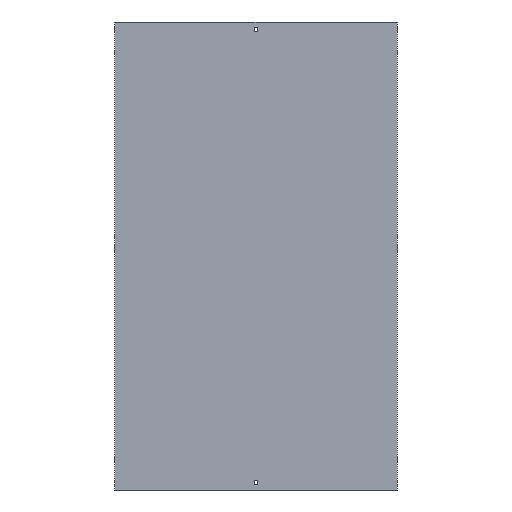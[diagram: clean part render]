
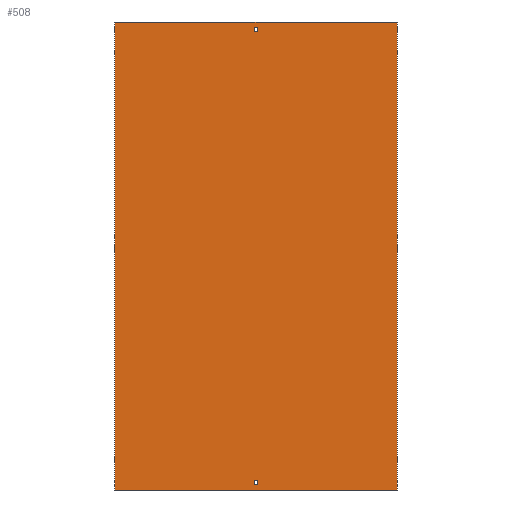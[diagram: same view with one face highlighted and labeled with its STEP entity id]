
A CAD part, front view. The second image highlights one B-rep face of the part: STEP entity #508.
In plain terms, the highlighted planar face has unit normal (0, -1, 0).
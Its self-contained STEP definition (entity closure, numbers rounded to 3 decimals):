
#97 = CARTESIAN_POINT ( 'NONE',  ( -3.25, 0., 488. ) ) ;
#113 = DIRECTION ( 'NONE',  ( -1., 0., 0. ) ) ;
#152 = ORIENTED_EDGE ( 'NONE', *, *, #2592, .T. ) ;
#157 = VECTOR ( 'NONE', #113, 1000. ) ;
#183 = VERTEX_POINT ( 'NONE', #1954 ) ;
#189 = ORIENTED_EDGE ( 'NONE', *, *, #2156, .T. ) ;
#213 = ORIENTED_EDGE ( 'NONE', *, *, #1082, .F. ) ;
#225 = EDGE_LOOP ( 'NONE', ( #189, #974, #2377, #2436 ) ) ;
#241 = LINE ( 'NONE', #1281, #687 ) ;
#248 = VECTOR ( 'NONE', #1613, 1000. ) ;
#335 = LINE ( 'NONE', #1174, #691 ) ;
#338 = VERTEX_POINT ( 'NONE', #2066 ) ;
#350 = DIRECTION ( 'NONE',  ( 1., 0., 0. ) ) ;
#354 = DIRECTION ( 'NONE',  ( 0., 0., 1. ) ) ;
#426 = DIRECTION ( 'NONE',  ( 0., 0., 1. ) ) ;
#472 = VECTOR ( 'NONE', #1349, 1000. ) ;
#481 = LINE ( 'NONE', #747, #2184 ) ;
#508 = ADVANCED_FACE ( 'NONE', ( #1072, #1311, #1699 ), #1931, .F. ) ;
#530 = EDGE_CURVE ( 'NONE', #994, #888, #481, .T. ) ;
#532 = CARTESIAN_POINT ( 'NONE',  ( -302., 0., 500. ) ) ;
#533 = LINE ( 'NONE', #935, #157 ) ;
#584 = CARTESIAN_POINT ( 'NONE',  ( -302., 0., 500. ) ) ;
#605 = VERTEX_POINT ( 'NONE', #2026 ) ;
#633 = DIRECTION ( 'NONE',  ( -1., 0., 0. ) ) ;
#635 = CARTESIAN_POINT ( 'NONE',  ( -302., 0., -500. ) ) ;
#649 = VECTOR ( 'NONE', #426, 1000. ) ;
#683 = VERTEX_POINT ( 'NONE', #1250 ) ;
#687 = VECTOR ( 'NONE', #633, 1000. ) ;
#691 = VECTOR ( 'NONE', #350, 1000. ) ;
#747 = CARTESIAN_POINT ( 'NONE',  ( 302., 0., 500. ) ) ;
#768 = LINE ( 'NONE', #532, #2091 ) ;
#772 = EDGE_CURVE ( 'NONE', #2745, #1422, #791, .T. ) ;
#791 = LINE ( 'NONE', #1446, #1492 ) ;
#822 = EDGE_CURVE ( 'NONE', #1422, #1624, #241, .T. ) ;
#835 = DIRECTION ( 'NONE',  ( 0., 0., -1. ) ) ;
#870 = VERTEX_POINT ( 'NONE', #1708 ) ;
#872 = EDGE_CURVE ( 'NONE', #870, #605, #2354, .T. ) ;
#888 = VERTEX_POINT ( 'NONE', #1308 ) ;
#909 = VECTOR ( 'NONE', #835, 1000. ) ;
#935 = CARTESIAN_POINT ( 'NONE',  ( -3.25, 0., -488. ) ) ;
#974 = ORIENTED_EDGE ( 'NONE', *, *, #530, .F. ) ;
#994 = VERTEX_POINT ( 'NONE', #1127 ) ;
#1042 = LINE ( 'NONE', #635, #2042 ) ;
#1072 = FACE_OUTER_BOUND ( 'NONE', #225, .T. ) ;
#1082 = EDGE_CURVE ( 'NONE', #1947, #2745, #335, .T. ) ;
#1089 = ORIENTED_EDGE ( 'NONE', *, *, #822, .F. ) ;
#1127 = CARTESIAN_POINT ( 'NONE',  ( 302., 0., 500. ) ) ;
#1133 = EDGE_CURVE ( 'NONE', #1956, #183, #768, .T. ) ;
#1174 = CARTESIAN_POINT ( 'NONE',  ( -3.25, 0., 479. ) ) ;
#1175 = LINE ( 'NONE', #97, #472 ) ;
#1250 = CARTESIAN_POINT ( 'NONE',  ( -3.25, 0., -488. ) ) ;
#1252 = LINE ( 'NONE', #1711, #649 ) ;
#1272 = VECTOR ( 'NONE', #1859, 1000. ) ;
#1281 = CARTESIAN_POINT ( 'NONE',  ( -3.25, 0., 488. ) ) ;
#1297 = DIRECTION ( 'NONE',  ( 0., 1., 0. ) ) ;
#1308 = CARTESIAN_POINT ( 'NONE',  ( 302., 0., -500. ) ) ;
#1311 = FACE_BOUND ( 'NONE', #2264, .T. ) ;
#1335 = CARTESIAN_POINT ( 'NONE',  ( 3.25, 0., 479. ) ) ;
#1349 = DIRECTION ( 'NONE',  ( 0., 0., -1. ) ) ;
#1379 = LINE ( 'NONE', #2044, #248 ) ;
#1422 = VERTEX_POINT ( 'NONE', #1982 ) ;
#1442 = ORIENTED_EDGE ( 'NONE', *, *, #2559, .F. ) ;
#1446 = CARTESIAN_POINT ( 'NONE',  ( 3.25, 0., 488. ) ) ;
#1492 = VECTOR ( 'NONE', #354, 1000. ) ;
#1514 = CARTESIAN_POINT ( 'NONE',  ( -3.25, 0., 488. ) ) ;
#1528 = EDGE_CURVE ( 'NONE', #1956, #994, #2052, .T. ) ;
#1613 = DIRECTION ( 'NONE',  ( 1., 0., 0. ) ) ;
#1624 = VERTEX_POINT ( 'NONE', #1514 ) ;
#1699 = FACE_BOUND ( 'NONE', #2612, .T. ) ;
#1708 = CARTESIAN_POINT ( 'NONE',  ( 3.25, 0., -479. ) ) ;
#1711 = CARTESIAN_POINT ( 'NONE',  ( -3.25, 0., -488. ) ) ;
#1741 = DIRECTION ( 'NONE',  ( -1., 0., 0. ) ) ;
#1859 = DIRECTION ( 'NONE',  ( 1., 0., 0. ) ) ;
#1898 = DIRECTION ( 'NONE',  ( 1., 0., 0. ) ) ;
#1931 = PLANE ( 'NONE',  #2443 ) ;
#1947 = VERTEX_POINT ( 'NONE', #2062 ) ;
#1954 = CARTESIAN_POINT ( 'NONE',  ( -302., 0., -500. ) ) ;
#1956 = VERTEX_POINT ( 'NONE', #2691 ) ;
#1982 = CARTESIAN_POINT ( 'NONE',  ( 3.25, 0., 488. ) ) ;
#2008 = ORIENTED_EDGE ( 'NONE', *, *, #772, .F. ) ;
#2026 = CARTESIAN_POINT ( 'NONE',  ( 3.25, 0., -488. ) ) ;
#2042 = VECTOR ( 'NONE', #1898, 1000. ) ;
#2044 = CARTESIAN_POINT ( 'NONE',  ( -3.25, 0., -479. ) ) ;
#2049 = ORIENTED_EDGE ( 'NONE', *, *, #2357, .T. ) ;
#2052 = LINE ( 'NONE', #584, #1272 ) ;
#2056 = DIRECTION ( 'NONE',  ( 0., 0., -1. ) ) ;
#2062 = CARTESIAN_POINT ( 'NONE',  ( -3.25, 0., 479. ) ) ;
#2066 = CARTESIAN_POINT ( 'NONE',  ( -3.25, 0., -479. ) ) ;
#2091 = VECTOR ( 'NONE', #2056, 1000. ) ;
#2123 = ORIENTED_EDGE ( 'NONE', *, *, #872, .T. ) ;
#2136 = EDGE_CURVE ( 'NONE', #683, #338, #1252, .T. ) ;
#2156 = EDGE_CURVE ( 'NONE', #183, #888, #1042, .T. ) ;
#2183 = CARTESIAN_POINT ( 'NONE',  ( -302., 0., 500. ) ) ;
#2184 = VECTOR ( 'NONE', #2429, 1000. ) ;
#2264 = EDGE_LOOP ( 'NONE', ( #213, #1442, #1089, #2008 ) ) ;
#2354 = LINE ( 'NONE', #2748, #909 ) ;
#2357 = EDGE_CURVE ( 'NONE', #338, #870, #1379, .T. ) ;
#2377 = ORIENTED_EDGE ( 'NONE', *, *, #1528, .F. ) ;
#2429 = DIRECTION ( 'NONE',  ( 0., 0., -1. ) ) ;
#2436 = ORIENTED_EDGE ( 'NONE', *, *, #1133, .T. ) ;
#2443 = AXIS2_PLACEMENT_3D ( 'NONE', #2183, #1297, #1741 ) ;
#2559 = EDGE_CURVE ( 'NONE', #1624, #1947, #1175, .T. ) ;
#2592 = EDGE_CURVE ( 'NONE', #605, #683, #533, .T. ) ;
#2600 = ORIENTED_EDGE ( 'NONE', *, *, #2136, .T. ) ;
#2612 = EDGE_LOOP ( 'NONE', ( #2600, #2049, #2123, #152 ) ) ;
#2691 = CARTESIAN_POINT ( 'NONE',  ( -302., 0., 500. ) ) ;
#2745 = VERTEX_POINT ( 'NONE', #1335 ) ;
#2748 = CARTESIAN_POINT ( 'NONE',  ( 3.25, 0., -488. ) ) ;
